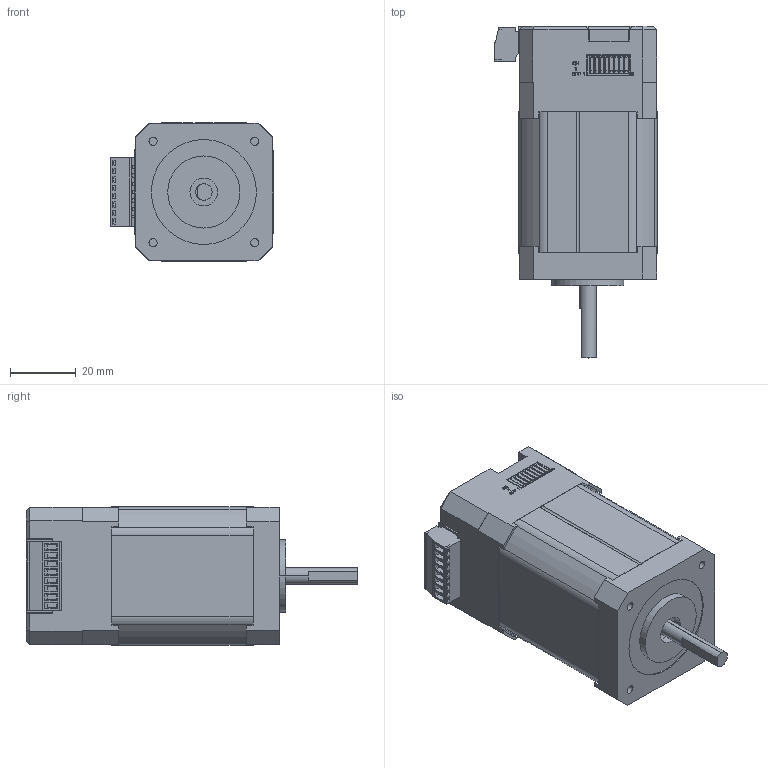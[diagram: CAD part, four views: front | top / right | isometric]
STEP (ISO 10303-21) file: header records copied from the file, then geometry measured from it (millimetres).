
FILE_DESCRIPTION((''),'2;1');
FILE_NAME('PRT0001','2024-08-10T09:18:47',('ruiwe'),(''),'CREO PARAMETRIC BY PTC INC, 2021063','CREO PARAMETRIC BY PTC INC, 2021063','');
FILE_SCHEMA(('CONFIG_CONTROL_DESIGN','SHAPE_APPEARANCE_LAYERS_GROUPS'));
Products named in the file (1): PRT0001
Bounding box: 49.45 x 101.2 x 42.2 mm (x, y, z)
Volume: 83872.8 mm3; surface area: 45096.5 mm2
Topology: 5 solids, 161 shells, 1947 faces, 6746 edges, 4989 vertices
Faces by surface type: plane 1370, cylinder 420, torus 56, bspline 38, cone 34, sphere 29
Entity records: 95919 total; most frequent: CARTESIAN_POINT 19743, ORIENTED_EDGE 11582, DIRECTION 10731, EDGE_CURVE 6746, VERTEX_POINT 4989, VECTOR 4955, LINE 4955, PRESENTATION_STYLE_ASSIGNMENT 3805
